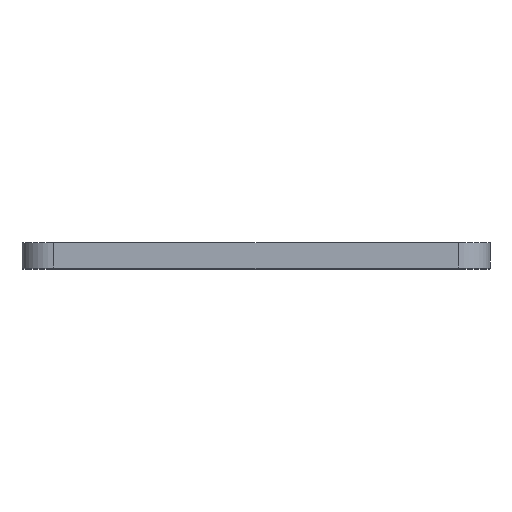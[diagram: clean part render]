
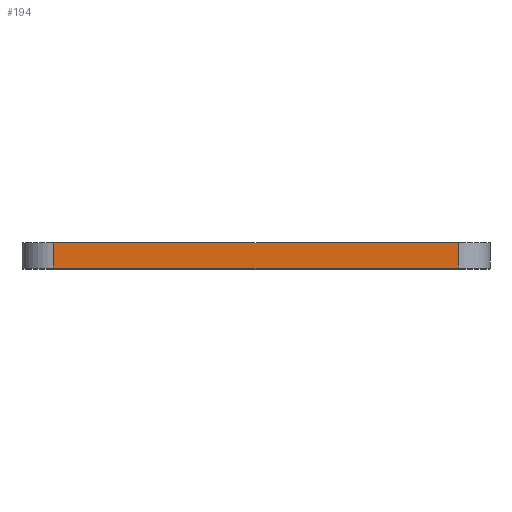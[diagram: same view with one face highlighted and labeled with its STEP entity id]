
A CAD part, top view. The second image highlights one B-rep face of the part: STEP entity #194.
In plain terms, the highlighted planar face has unit normal (0, 0, 1).
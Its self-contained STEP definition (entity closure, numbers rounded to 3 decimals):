
#17 = DIRECTION ( 'NONE',  ( 0., 0., 1. ) ) ;
#22 = CARTESIAN_POINT ( 'NONE',  ( -18.5, 0., 48.5 ) ) ;
#29 = VECTOR ( 'NONE', #784, 1000. ) ;
#46 = CARTESIAN_POINT ( 'NONE',  ( 16., 2., 48.5 ) ) ;
#51 = VERTEX_POINT ( 'NONE', #484 ) ;
#64 = CARTESIAN_POINT ( 'NONE',  ( -16., 0., 48.5 ) ) ;
#119 = CARTESIAN_POINT ( 'NONE',  ( 16., 0., 48.5 ) ) ;
#150 = DIRECTION ( 'NONE',  ( 1., 0., 0. ) ) ;
#182 = ORIENTED_EDGE ( 'NONE', *, *, #618, .T. ) ;
#194 = ADVANCED_FACE ( 'NONE', ( #374 ), #386, .T. ) ;
#206 = ORIENTED_EDGE ( 'NONE', *, *, #493, .T. ) ;
#262 = EDGE_LOOP ( 'NONE', ( #206, #182, #404, #527 ) ) ;
#372 = AXIS2_PLACEMENT_3D ( 'NONE', #22, #17, #150 ) ;
#374 = FACE_OUTER_BOUND ( 'NONE', #262, .T. ) ;
#376 = EDGE_CURVE ( 'NONE', #51, #526, #739, .T. ) ;
#386 = PLANE ( 'NONE',  #372 ) ;
#390 = DIRECTION ( 'NONE',  ( 1., 0., 0. ) ) ;
#395 = VECTOR ( 'NONE', #390, 1000. ) ;
#404 = ORIENTED_EDGE ( 'NONE', *, *, #505, .F. ) ;
#417 = DIRECTION ( 'NONE',  ( 0., 1., 0. ) ) ;
#428 = LINE ( 'NONE', #481, #718 ) ;
#435 = DIRECTION ( 'NONE',  ( 1., 0., 0. ) ) ;
#481 = CARTESIAN_POINT ( 'NONE',  ( 16., 0., 48.5 ) ) ;
#484 = CARTESIAN_POINT ( 'NONE',  ( -16., 2., 48.5 ) ) ;
#493 = EDGE_CURVE ( 'NONE', #526, #747, #534, .T. ) ;
#505 = EDGE_CURVE ( 'NONE', #51, #596, #651, .T. ) ;
#508 = CARTESIAN_POINT ( 'NONE',  ( -18.5, 0., 48.5 ) ) ;
#526 = VERTEX_POINT ( 'NONE', #64 ) ;
#527 = ORIENTED_EDGE ( 'NONE', *, *, #376, .T. ) ;
#534 = LINE ( 'NONE', #508, #395 ) ;
#582 = CARTESIAN_POINT ( 'NONE',  ( -16., 0., 48.5 ) ) ;
#596 = VERTEX_POINT ( 'NONE', #46 ) ;
#618 = EDGE_CURVE ( 'NONE', #747, #596, #428, .T. ) ;
#651 = LINE ( 'NONE', #815, #801 ) ;
#718 = VECTOR ( 'NONE', #417, 1000. ) ;
#739 = LINE ( 'NONE', #582, #29 ) ;
#747 = VERTEX_POINT ( 'NONE', #119 ) ;
#784 = DIRECTION ( 'NONE',  ( 0., -1., 0. ) ) ;
#801 = VECTOR ( 'NONE', #435, 1000. ) ;
#815 = CARTESIAN_POINT ( 'NONE',  ( -18.5, 2., 48.5 ) ) ;
